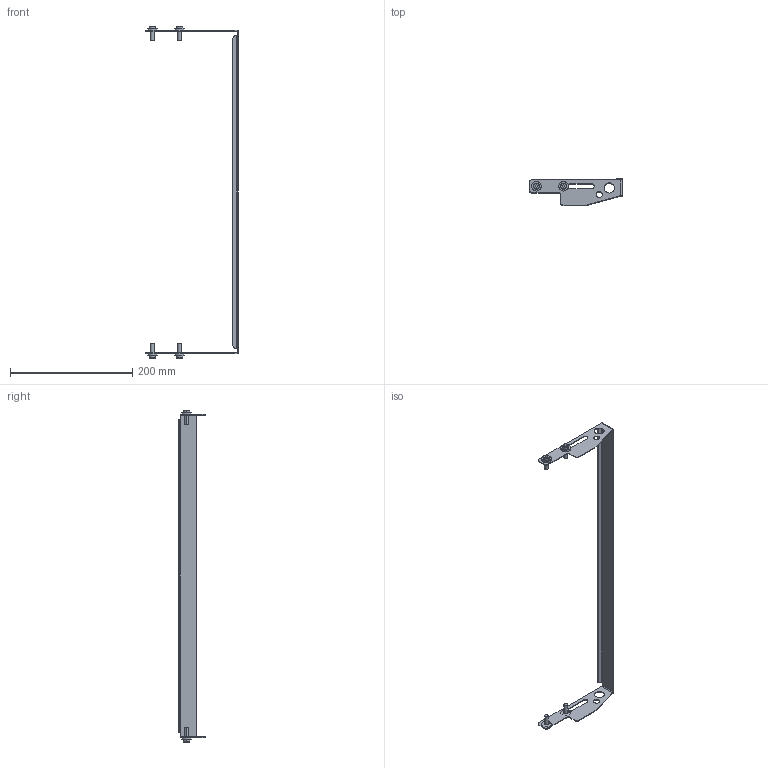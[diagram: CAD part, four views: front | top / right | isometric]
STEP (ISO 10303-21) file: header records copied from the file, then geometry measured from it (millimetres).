
FILE_DESCRIPTION((''),'2;1');
FILE_NAME('207218-16_ASM','2019-01-09T',('jenni.wallner'),(''),'PRO/ENGINEER BY PARAMETRIC TECHNOLOGY CORPORATION, 2012420','PRO/ENGINEER BY PARAMETRIC TECHNOLOGY CORPORATION, 2012420','');
FILE_SCHEMA(('CONFIG_CONTROL_DESIGN'));
Length unit declared in the file: inch
Products named in the file (4): 207125-20; 605279P; 950620M; 207218-16_ASM
Assembly tree (9 placements, depth 2):
  207218-16_ASM
    207125-20
    605279P  x4
    950620M  x4
Bounding box: 151.79 x 43.71 x 542.7 mm (x, y, z)
Volume: 37332.6 mm3; surface area: 60260.8 mm2
Topology: 9 solids, 9 shells, 187 faces, 445 edges, 284 vertices
Faces by surface type: plane 94, cylinder 77, cone 16
Entity records: 3699 total; most frequent: DIRECTION 663, CARTESIAN_POINT 611, ORIENTED_EDGE 590, EDGE_CURVE 295, AXIS2_PLACEMENT_3D 240, VERTEX_POINT 188, VECTOR 183, LINE 183
